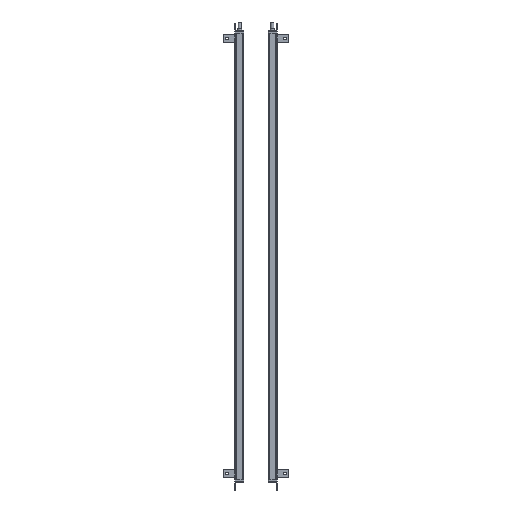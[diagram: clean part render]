
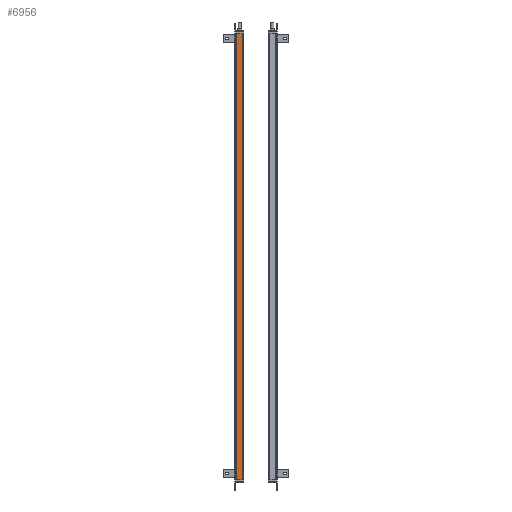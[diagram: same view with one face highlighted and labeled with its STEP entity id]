
A CAD part, left-side view. The second image highlights one B-rep face of the part: STEP entity #6956.
In plain terms, the highlighted planar face has unit normal (-1, 0, 0).
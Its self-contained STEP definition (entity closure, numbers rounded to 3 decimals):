
#953=FACE_OUTER_BOUND('',#9034,.T.);
#2188=LINE('',#33710,#4326);
#2290=LINE('',#34050,#4428);
#2291=LINE('',#34052,#4429);
#2292=LINE('',#34054,#4430);
#4326=VECTOR('',#26897,1.);
#4428=VECTOR('',#27185,1.);
#4429=VECTOR('',#27188,1.);
#4430=VECTOR('',#27189,1.);
#6178=PLANE('',#23723);
#6956=ADVANCED_FACE('',(#953),#6178,.T.);
#9034=EDGE_LOOP('',(#11681,#11682,#11683,#11684));
#11681=ORIENTED_EDGE('',*,*,#19828,.F.);
#11682=ORIENTED_EDGE('',*,*,#19829,.T.);
#11683=ORIENTED_EDGE('',*,*,#19830,.T.);
#11684=ORIENTED_EDGE('',*,*,#19658,.F.);
#17203=VERTEX_POINT('',#33709);
#17204=VERTEX_POINT('',#33711);
#17348=VERTEX_POINT('',#34049);
#17349=VERTEX_POINT('',#34053);
#19658=EDGE_CURVE('',#17203,#17204,#2188,.T.);
#19828=EDGE_CURVE('',#17348,#17203,#2290,.T.);
#19829=EDGE_CURVE('',#17348,#17349,#2291,.T.);
#19830=EDGE_CURVE('',#17349,#17204,#2292,.T.);
#23723=AXIS2_PLACEMENT_3D('',#34055,#27190,#27191);
#26897=DIRECTION('',(0.,-1.,0.));
#27185=DIRECTION('',(0.,0.,1.));
#27188=DIRECTION('',(0.,-1.,0.));
#27189=DIRECTION('',(0.,0.,1.));
#27190=DIRECTION('',(-1.,0.,0.));
#27191=DIRECTION('',(0.,-1.,0.));
#33709=CARTESIAN_POINT('',(233.846,104.141,31.645));
#33710=CARTESIAN_POINT('',(233.846,81.141,31.645));
#33711=CARTESIAN_POINT('',(233.846,81.141,31.645));
#34049=CARTESIAN_POINT('',(233.846,104.141,-1743.355));
#34050=CARTESIAN_POINT('',(233.846,104.141,-155.355));
#34052=CARTESIAN_POINT('',(233.846,81.141,-1743.355));
#34053=CARTESIAN_POINT('',(233.846,81.141,-1743.355));
#34054=CARTESIAN_POINT('',(233.846,81.141,-155.355));
#34055=CARTESIAN_POINT('',(233.846,81.141,-50.355));
